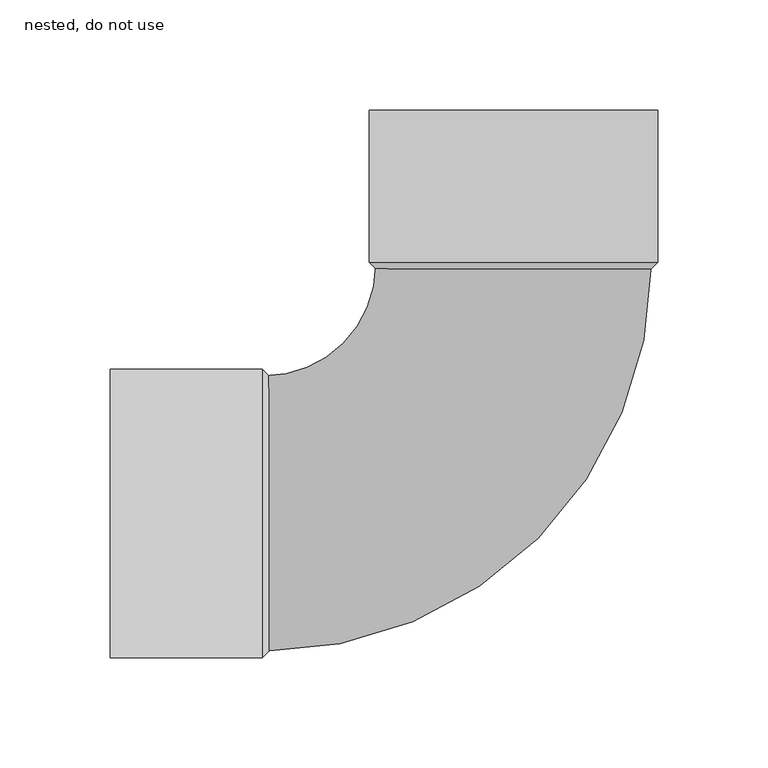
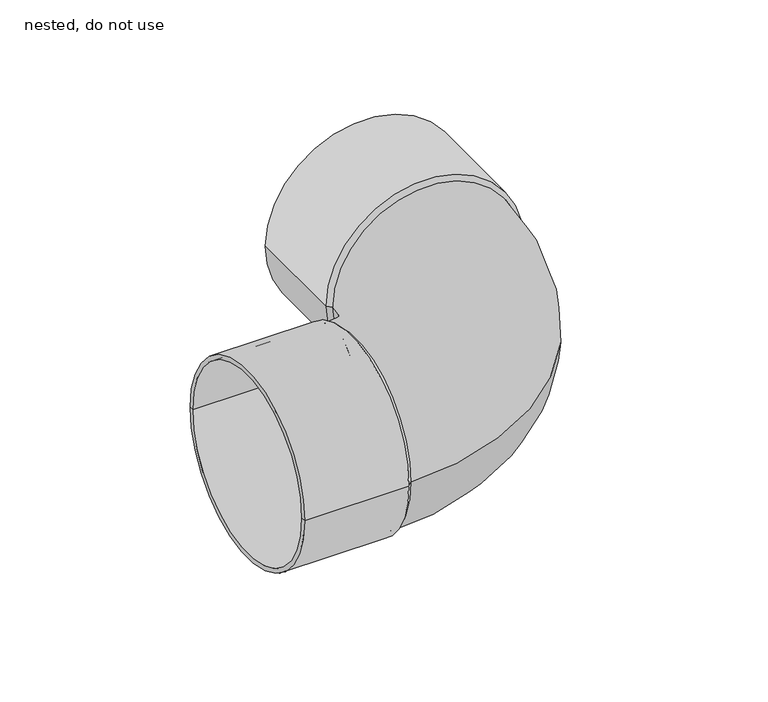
"""IFC4 building model written with IfcOpenShell, lengths in millimetres: pipe fitting geometry, NLRS_52_PIF_UN_Vacurain Flex bocht 2LV_SH_Dyka : nested, do not use."""

from ifc_helpers import new_model, si_unit, point, frame, origin, place, context, project, spatial, polyline, circle_curve, ellipse_curve, trimmed, source, transform, mapped, element, save
from ifc_brep_helpers import plane_surface, cylinder_surface, revolved_surface, advanced_brep


def nested_do_not_use_7383d155(model_context):
    return source(origin(), model_context, "Body", "AdvancedBrep", [
        advanced_brep(
        [(-183.0, 65.4, 0.0), (-183.0, -65.4, 0.0), (-183.0, -62.5, 0.0), (-183.0, 62.5, 0.0), (-114.0, 65.4, 0.0), (-114.0, -65.4, 0.0), (-111.1, 62.5, 0.0), (-111.1, -62.5, 0.0)],
        [
            (0, 1, circle_curve(frame((-183.0, 0.0, 0.0), z_axis=(-1.0, 0.0, 0.0), x_axis=(0.0, -1.0, 0.0)), 65.4)),
            (1, 2),
            (2, 3, circle_curve(frame((-183.0, 0.0, 0.0), z_axis=(1.0, 0.0, 0.0), x_axis=(0.0, -1.0, 0.0)), 62.5)),
            (3, 0),
            (1, 0, circle_curve(frame((-183.0, 0.0, 0.0), z_axis=(-1.0, 0.0, 0.0), x_axis=(0.0, -1.0, 0.0)), 65.4)),
            (3, 2, circle_curve(frame((-183.0, 0.0, 0.0), z_axis=(1.0, 0.0, 0.0), x_axis=(0.0, -1.0, 0.0)), 62.5)),
            (4, 5, circle_curve(frame((-114.0, 0.0, 0.0), z_axis=(-1.0, 0.0, 0.0), x_axis=(0.0, -1.0, 0.0)), 65.4)),
            (5, 1),
            (0, 4),
            (5, 4, circle_curve(frame((-114.0, 0.0, 0.0), z_axis=(-1.0, 0.0, 0.0), x_axis=(0.0, -1.0, 0.0)), 65.4)),
            (6, 7, circle_curve(frame((-111.1, 0.0, 0.0), z_axis=(-1.0, 0.0, 0.0), x_axis=(0.0, -1.0, 0.0)), 62.5)),
            (7, 5),
            (4, 6),
            (7, 6, circle_curve(frame((-111.1, 0.0, 0.0), z_axis=(-1.0, 0.0, 0.0), x_axis=(0.0, -1.0, 0.0)), 62.5)),
            (2, 7),
            (6, 3),
        ],
        [
            plane_surface(frame((-183.0, 0.0, 0.0), z_axis=(-1.0, 0.0, 0.0), x_axis=(0.0, -1.0, 0.0))),
            cylinder_surface(frame((-114.0, 0.0, 0.0), z_axis=(1.0, 0.0, 0.0), x_axis=(0.0, -1.0, 0.0)), 65.4),
            revolved_surface(polyline([(-114.0, -65.4, 0.0), (-111.1, -62.5, 0.0)]), (-114.0, 0.0, 0.0), (1.0, 0.0, 0.0)),
            revolved_surface(polyline([(-111.1, -62.5, 0.0), (-183.0, -62.5, 0.0)]), (-114.0, 0.0, 0.0), (1.0, 0.0, 0.0)),
        ],
        [
            (0, [[1, 2, 3, 4]]),
            (0, [[5, -4, 6, -2]]),
            (1, [[7, 8, -1, 9]]),
            (1, [[10, -9, -5, -8]]),
            (2, [[11, 12, -7, 13]]),
            (2, [[14, -13, -10, -12]]),
            (3, [[-3, 15, -11, 16]]),
            (3, [[-6, -16, -14, -15]]),
        ],
    ),
        advanced_brep(
        [(65.4, 183.0, 0.0), (-65.4, 183.0, 0.0), (-62.5, 183.0, 0.0), (62.5, 183.0, 0.0), (65.4, 114.0, 0.0), (-65.4, 114.0, 0.0), (62.5, 111.1, 0.0), (-62.5, 111.1, 0.0)],
        [
            (0, 1, circle_curve(frame((0.0, 183.0, 0.0), z_axis=(0.0, 1.0, 0.0), x_axis=(-1.0, 0.0, 0.0)), 65.4)),
            (1, 2),
            (2, 3, circle_curve(frame((0.0, 183.0, 0.0), z_axis=(0.0, -1.0, 0.0), x_axis=(-1.0, 0.0, 0.0)), 62.5)),
            (3, 0),
            (1, 0, circle_curve(frame((0.0, 183.0, 0.0), z_axis=(0.0, 1.0, 0.0), x_axis=(-1.0, 0.0, 0.0)), 65.4)),
            (3, 2, circle_curve(frame((0.0, 183.0, 0.0), z_axis=(0.0, -1.0, 0.0), x_axis=(-1.0, 0.0, 0.0)), 62.5)),
            (4, 5, circle_curve(frame((0.0, 114.0, 0.0), z_axis=(0.0, 1.0, 0.0), x_axis=(-1.0, 0.0, 0.0)), 65.4)),
            (5, 1),
            (0, 4),
            (5, 4, circle_curve(frame((0.0, 114.0, 0.0), z_axis=(0.0, 1.0, 0.0), x_axis=(-1.0, 0.0, 0.0)), 65.4)),
            (6, 7, circle_curve(frame((0.0, 111.1, 0.0), z_axis=(0.0, 1.0, 0.0), x_axis=(-1.0, 0.0, 0.0)), 62.5)),
            (7, 5),
            (4, 6),
            (7, 6, circle_curve(frame((0.0, 111.1, 0.0), z_axis=(0.0, 1.0, 0.0), x_axis=(-1.0, 0.0, 0.0)), 62.5)),
            (2, 7),
            (6, 3),
        ],
        [
            plane_surface(frame((0.0, 183.0, 0.0), z_axis=(0.0, 1.0, 0.0), x_axis=(-1.0, 0.0, 0.0))),
            cylinder_surface(frame((0.0, 114.0, 0.0), z_axis=(0.0, -1.0, 0.0), x_axis=(-1.0, 0.0, 0.0)), 65.4),
            revolved_surface(polyline([(-65.4, 114.0, 0.0), (-62.5, 111.1, 0.0)]), (0.0, 114.0, 0.0), (0.0, -1.0, 0.0)),
            revolved_surface(polyline([(-62.5, 111.1, 0.0), (-62.5, 183.0, 0.0)]), (0.0, 114.0, 0.0), (0.0, -1.0, 0.0)),
        ],
        [
            (0, [[1, 2, 3, 4]]),
            (0, [[5, -4, 6, -2]]),
            (1, [[7, 8, -1, 9]]),
            (1, [[10, -9, -5, -8]]),
            (2, [[11, 12, -7, 13]]),
            (2, [[14, -13, -10, -12]]),
            (3, [[-3, 15, -11, 16]]),
            (3, [[-6, -16, -14, -15]]),
        ],
    ),
        advanced_brep(
        [(-114.0, -62.5, 0.0), (-114.0, 62.5, 0.0), (-113.0, -62.5, 0.0), (-113.0, 62.5, 0.0), (-62.5, 113.0, 0.0), (62.5, 113.0, 0.0), (62.5, 114.0, 0.0), (-62.5, 114.0, 0.0)],
        [
            (0, 1, circle_curve(frame((-114.0, 0.0, 0.0), z_axis=(-1.0, 0.0, 0.0), x_axis=(0.0, 1.0, 0.0)), 62.5)),
            (1, 0, circle_curve(frame((-114.0, 0.0, 0.0), z_axis=(-1.0, 0.0, 0.0), x_axis=(0.0, 1.0, 0.0)), 62.5)),
            (0, 2),
            (2, 3, circle_curve(frame((-113.0, 0.0, 0.0), z_axis=(-1.0, 0.0, 0.0), x_axis=(0.0, 1.0, 0.0)), 62.5)),
            (3, 1),
            (3, 2, circle_curve(frame((-113.0, 0.0, 0.0), z_axis=(-1.0, 0.0, 0.0), x_axis=(0.0, 1.0, 0.0)), 62.5)),
            (4, 3, circle_curve(frame((-113.0, 113.0, 0.0), z_axis=(0.0, 0.0, -1.0), x_axis=(0.0, -1.0, 0.0)), 50.5)),
            (2, 5, circle_curve(frame((-113.0, 113.0, 0.0), z_axis=(0.0, 0.0, 1.0), x_axis=(0.0, -1.0, 0.0)), 175.5)),
            (5, 4, circle_curve(frame((0.0, 113.0, 0.0), z_axis=(0.0, -1.0, 0.0), x_axis=(-1.0, 0.0, 0.0)), 62.5)),
            (4, 5, circle_curve(frame((0.0, 113.0, 0.0), z_axis=(0.0, -1.0, 0.0), x_axis=(-1.0, 0.0, 0.0)), 62.5)),
            (6, 7, circle_curve(frame((0.0, 114.0, 0.0), z_axis=(0.0, 1.0, 0.0), x_axis=(-1.0, 0.0, 0.0)), 62.5)),
            (7, 6, circle_curve(frame((0.0, 114.0, 0.0), z_axis=(0.0, 1.0, 0.0), x_axis=(-1.0, 0.0, 0.0)), 62.5)),
            (5, 6),
            (7, 4),
        ],
        [
            plane_surface(frame((-114.0, 0.0, 0.0), z_axis=(-1.0, 0.0, 0.0), x_axis=(0.0, 0.0, 1.0))),
            cylinder_surface(frame((-114.0, 0.0, 0.0), z_axis=(-1.0, 0.0, 0.0), x_axis=(0.0, 1.0, 0.0)), 62.5),
            revolved_surface(trimmed(ellipse_curve(frame((-113.0, 0.0, 0.0), z_axis=(-1.0, 0.0, 0.0), x_axis=(0.0, 1.0, 0.0)), 62.5, 62.5), [point((-113.0, -62.5, 0.0))], [point((-113.0, 62.5, 0.0))], True, "CARTESIAN"), (-113.0, 113.0, 0.0), (0.0, 0.0, 1.0)),
            revolved_surface(trimmed(ellipse_curve(frame((-113.0, 0.0, 0.0), z_axis=(-1.0, 0.0, 0.0), x_axis=(0.0, 1.0, 0.0)), 62.5, 62.5), [point((-113.0, 62.5, 0.0))], [point((-113.0, -62.5, 0.0))], True, "CARTESIAN"), (-113.0, 113.0, 0.0), (0.0, 0.0, 1.0)),
            plane_surface(frame((0.0, 114.0, 0.0), z_axis=(0.0, 1.0, 0.0), x_axis=(0.0, 0.0, 1.0))),
            cylinder_surface(frame((0.0, 113.0, 0.0), z_axis=(0.0, -1.0, 0.0), x_axis=(-1.0, 0.0, 0.0)), 62.5),
        ],
        [
            (0, [[1, 2]]),
            (1, [[-1, 3, 4, 5]]),
            (1, [[-2, -5, 6, -3]]),
            (2, [[7, -4, 8, 9]]),
            (3, [[-8, -6, -7, 10]]),
            (4, [[11, 12]]),
            (5, [[-9, 13, -12, 14]]),
            (5, [[-10, -14, -11, -13]]),
        ],
    ),
    ])


if __name__ == "__main__":
    model = new_model("IFC4")
    model_context = context("Model", 3, world=origin())
    ifc_project = project(units=[si_unit("LENGTHUNIT", "METRE", prefix="MILLI")], contexts=[model_context])
    site = spatial("IfcSite", under=ifc_project)
    building = spatial("IfcBuilding", under=site)
    placement = place(None, origin())
    nested_do_not_use_shape = nested_do_not_use_7383d155(model_context)
    element("IfcPipeFitting", 1, ObjectType="NLRS_52_PIF_UN_Vacurain Flex bocht 2LV_SH_Dyka : nested, do not use", at=placement, inside=building, context=model_context, shape_type="MappedRepresentation", body=[
        mapped(nested_do_not_use_shape, transform((0.0, 0.0, 0.0), x_axis=(1.0, 0.0, 0.0), y_axis=(0.0, 1.0, 0.0), z_axis=(0.0, 0.0, 1.0))),
    ])
    save(model, "model.ifc")
